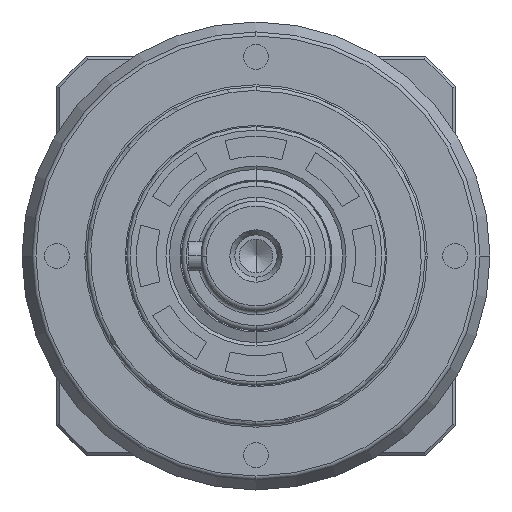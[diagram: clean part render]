
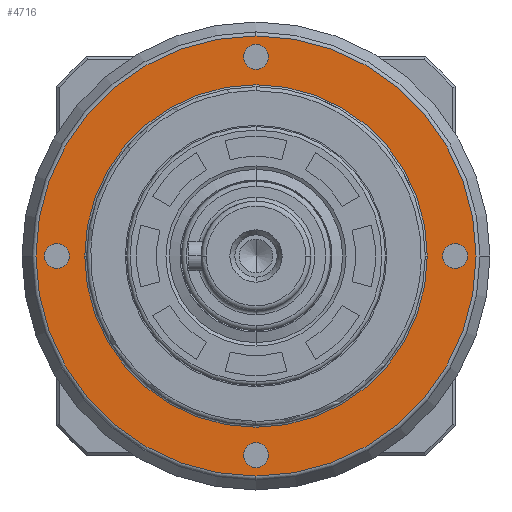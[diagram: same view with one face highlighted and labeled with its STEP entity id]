
A CAD part, left-side view. The second image highlights one B-rep face of the part: STEP entity #4716.
In plain terms, the highlighted planar face has unit normal (-1, 0, 0).
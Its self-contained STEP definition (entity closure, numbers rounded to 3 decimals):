
#267 = EDGE_CURVE ( 'NONE', #872, #44321, #36001, .T. ) ;
#760 = CARTESIAN_POINT ( 'NONE',  ( 6., 40., 2.5 ) ) ;
#872 = VERTEX_POINT ( 'NONE', #12331 ) ;
#1166 = CIRCLE ( 'NONE', #29185, 34.4 ) ;
#1711 = CARTESIAN_POINT ( 'NONE',  ( 6., 0., -44.2 ) ) ;
#1717 = FACE_BOUND ( 'NONE', #43559, .T. ) ;
#1766 = DIRECTION ( 'NONE',  ( 0., 0., -1. ) ) ;
#1818 = DIRECTION ( 'NONE',  ( 1., 0., 0. ) ) ;
#1829 = CARTESIAN_POINT ( 'NONE',  ( 6., 0., -40. ) ) ;
#2244 = VERTEX_POINT ( 'NONE', #3427 ) ;
#3152 = VERTEX_POINT ( 'NONE', #44223 ) ;
#3261 = CIRCLE ( 'NONE', #14621, 2.5 ) ;
#3427 = CARTESIAN_POINT ( 'NONE',  ( 6., 0., 37.5 ) ) ;
#4188 = VERTEX_POINT ( 'NONE', #26199 ) ;
#4608 = CIRCLE ( 'NONE', #43495, 2.5 ) ;
#4716 = ADVANCED_FACE ( 'NONE', ( #6859, #25931, #1717, #10395, #20441, #44890 ), #16132, .T. ) ;
#5812 = EDGE_CURVE ( 'NONE', #12767, #45249, #41118, .T. ) ;
#6550 = EDGE_CURVE ( 'NONE', #45249, #12767, #9799, .T. ) ;
#6859 = FACE_BOUND ( 'NONE', #9612, .T. ) ;
#7472 = VERTEX_POINT ( 'NONE', #20110 ) ;
#7682 = AXIS2_PLACEMENT_3D ( 'NONE', #38542, #17770, #42072 ) ;
#7708 = ORIENTED_EDGE ( 'NONE', *, *, #13668, .T. ) ;
#7971 = CIRCLE ( 'NONE', #36373, 2.5 ) ;
#8472 = VERTEX_POINT ( 'NONE', #760 ) ;
#9497 = VERTEX_POINT ( 'NONE', #14972 ) ;
#9612 = EDGE_LOOP ( 'NONE', ( #38111, #22942 ) ) ;
#9799 = CIRCLE ( 'NONE', #14979, 44.2 ) ;
#10395 = FACE_BOUND ( 'NONE', #10670, .T. ) ;
#10670 = EDGE_LOOP ( 'NONE', ( #41559, #42500 ) ) ;
#11231 = EDGE_CURVE ( 'NONE', #3152, #8472, #3261, .T. ) ;
#12331 = CARTESIAN_POINT ( 'NONE',  ( 6., 0., -37.5 ) ) ;
#12767 = VERTEX_POINT ( 'NONE', #1711 ) ;
#13668 = EDGE_CURVE ( 'NONE', #9497, #7472, #1166, .T. ) ;
#13990 = EDGE_CURVE ( 'NONE', #8472, #3152, #4608, .T. ) ;
#14621 = AXIS2_PLACEMENT_3D ( 'NONE', #28974, #28941, #28895 ) ;
#14972 = CARTESIAN_POINT ( 'NONE',  ( 6., -34.4, 0. ) ) ;
#14979 = AXIS2_PLACEMENT_3D ( 'NONE', #36043, #35988, #35975 ) ;
#15000 = CARTESIAN_POINT ( 'NONE',  ( 6., -40., -2.5 ) ) ;
#15325 = DIRECTION ( 'NONE',  ( 0., 0., 1. ) ) ;
#15383 = DIRECTION ( 'NONE',  ( -1., 0., 0. ) ) ;
#15414 = CARTESIAN_POINT ( 'NONE',  ( 6., 0., 0. ) ) ;
#15805 = ORIENTED_EDGE ( 'NONE', *, *, #21477, .T. ) ;
#16132 = PLANE ( 'NONE',  #16608 ) ;
#16192 = DIRECTION ( 'NONE',  ( 1., 0., 0. ) ) ;
#16608 = AXIS2_PLACEMENT_3D ( 'NONE', #15414, #15383, #15325 ) ;
#16997 = CIRCLE ( 'NONE', #20565, 2.5 ) ;
#17770 = DIRECTION ( 'NONE',  ( 1., 0., 0. ) ) ;
#18518 = DIRECTION ( 'NONE',  ( 1., 0., 0. ) ) ;
#18614 = EDGE_CURVE ( 'NONE', #7472, #9497, #38295, .T. ) ;
#18780 = ORIENTED_EDGE ( 'NONE', *, *, #37065, .T. ) ;
#19460 = EDGE_CURVE ( 'NONE', #26333, #2244, #20913, .T. ) ;
#19609 = CIRCLE ( 'NONE', #7682, 2.5 ) ;
#20058 = AXIS2_PLACEMENT_3D ( 'NONE', #23840, #23786, #23753 ) ;
#20110 = CARTESIAN_POINT ( 'NONE',  ( 6., 34.4, 0. ) ) ;
#20441 = FACE_OUTER_BOUND ( 'NONE', #40831, .T. ) ;
#20565 = AXIS2_PLACEMENT_3D ( 'NONE', #36976, #16192, #40498 ) ;
#20913 = CIRCLE ( 'NONE', #20058, 2.5 ) ;
#21477 = EDGE_CURVE ( 'NONE', #37113, #4188, #7971, .T. ) ;
#21692 = ORIENTED_EDGE ( 'NONE', *, *, #37303, .T. ) ;
#22223 = CARTESIAN_POINT ( 'NONE',  ( 6., 0., 42.5 ) ) ;
#22942 = ORIENTED_EDGE ( 'NONE', *, *, #19460, .T. ) ;
#23753 = DIRECTION ( 'NONE',  ( 0., 0., -1. ) ) ;
#23786 = DIRECTION ( 'NONE',  ( 1., 0., 0. ) ) ;
#23840 = CARTESIAN_POINT ( 'NONE',  ( 6., 0., 40. ) ) ;
#24767 = ORIENTED_EDGE ( 'NONE', *, *, #267, .T. ) ;
#25101 = DIRECTION ( 'NONE',  ( 0., 0., -1. ) ) ;
#25158 = DIRECTION ( 'NONE',  ( 1., 0., 0. ) ) ;
#25195 = CARTESIAN_POINT ( 'NONE',  ( 6., 40., 0. ) ) ;
#25437 = ORIENTED_EDGE ( 'NONE', *, *, #5812, .F. ) ;
#25480 = DIRECTION ( 'NONE',  ( 0., 0., -1. ) ) ;
#25570 = DIRECTION ( 'NONE',  ( 1., 0., 0. ) ) ;
#25616 = CARTESIAN_POINT ( 'NONE',  ( 6., -40., 0. ) ) ;
#25931 = FACE_BOUND ( 'NONE', #26546, .T. ) ;
#26199 = CARTESIAN_POINT ( 'NONE',  ( 6., -40., 2.5 ) ) ;
#26333 = VERTEX_POINT ( 'NONE', #22223 ) ;
#26546 = EDGE_LOOP ( 'NONE', ( #15805, #18780 ) ) ;
#26699 = ORIENTED_EDGE ( 'NONE', *, *, #18614, .T. ) ;
#28895 = DIRECTION ( 'NONE',  ( 0., 0., -1. ) ) ;
#28941 = DIRECTION ( 'NONE',  ( 1., 0., 0. ) ) ;
#28974 = CARTESIAN_POINT ( 'NONE',  ( 6., 40., 0. ) ) ;
#29185 = AXIS2_PLACEMENT_3D ( 'NONE', #34219, #34125, #34079 ) ;
#30610 = CARTESIAN_POINT ( 'NONE',  ( 6., 0., 44.2 ) ) ;
#30997 = AXIS2_PLACEMENT_3D ( 'NONE', #39789, #40271, #40523 ) ;
#31099 = CIRCLE ( 'NONE', #38554, 2.5 ) ;
#33544 = AXIS2_PLACEMENT_3D ( 'NONE', #38980, #38938, #38883 ) ;
#34079 = DIRECTION ( 'NONE',  ( 0., -1., 0. ) ) ;
#34125 = DIRECTION ( 'NONE',  ( 1., 0., 0. ) ) ;
#34219 = CARTESIAN_POINT ( 'NONE',  ( 6., 0., 0. ) ) ;
#35975 = DIRECTION ( 'NONE',  ( 0., 0., 1. ) ) ;
#35988 = DIRECTION ( 'NONE',  ( 1., 0., 0. ) ) ;
#36001 = CIRCLE ( 'NONE', #42381, 2.5 ) ;
#36043 = CARTESIAN_POINT ( 'NONE',  ( 6., 0., 0. ) ) ;
#36373 = AXIS2_PLACEMENT_3D ( 'NONE', #25616, #25570, #25480 ) ;
#36976 = CARTESIAN_POINT ( 'NONE',  ( 6., 0., -40. ) ) ;
#37065 = EDGE_CURVE ( 'NONE', #4188, #37113, #31099, .T. ) ;
#37113 = VERTEX_POINT ( 'NONE', #15000 ) ;
#37303 = EDGE_CURVE ( 'NONE', #44321, #872, #16997, .T. ) ;
#38111 = ORIENTED_EDGE ( 'NONE', *, *, #41407, .T. ) ;
#38295 = CIRCLE ( 'NONE', #33544, 34.4 ) ;
#38542 = CARTESIAN_POINT ( 'NONE',  ( 6., 0., 40. ) ) ;
#38554 = AXIS2_PLACEMENT_3D ( 'NONE', #39308, #18518, #42818 ) ;
#38883 = DIRECTION ( 'NONE',  ( 0., -1., 0. ) ) ;
#38938 = DIRECTION ( 'NONE',  ( 1., 0., 0. ) ) ;
#38980 = CARTESIAN_POINT ( 'NONE',  ( 6., 0., 0. ) ) ;
#39308 = CARTESIAN_POINT ( 'NONE',  ( 6., -40., 0. ) ) ;
#39789 = CARTESIAN_POINT ( 'NONE',  ( 6., 0., 0. ) ) ;
#40271 = DIRECTION ( 'NONE',  ( 1., 0., 0. ) ) ;
#40498 = DIRECTION ( 'NONE',  ( 0., 0., -1. ) ) ;
#40523 = DIRECTION ( 'NONE',  ( 0., 0., 1. ) ) ;
#40831 = EDGE_LOOP ( 'NONE', ( #42977, #25437 ) ) ;
#41118 = CIRCLE ( 'NONE', #30997, 44.2 ) ;
#41407 = EDGE_CURVE ( 'NONE', #2244, #26333, #19609, .T. ) ;
#41559 = ORIENTED_EDGE ( 'NONE', *, *, #11231, .T. ) ;
#42072 = DIRECTION ( 'NONE',  ( 0., 0., -1. ) ) ;
#42381 = AXIS2_PLACEMENT_3D ( 'NONE', #1829, #1818, #1766 ) ;
#42478 = CARTESIAN_POINT ( 'NONE',  ( 6., 0., -42.5 ) ) ;
#42500 = ORIENTED_EDGE ( 'NONE', *, *, #13990, .T. ) ;
#42736 = EDGE_LOOP ( 'NONE', ( #7708, #26699 ) ) ;
#42818 = DIRECTION ( 'NONE',  ( 0., 0., -1. ) ) ;
#42977 = ORIENTED_EDGE ( 'NONE', *, *, #6550, .F. ) ;
#43495 = AXIS2_PLACEMENT_3D ( 'NONE', #25195, #25158, #25101 ) ;
#43559 = EDGE_LOOP ( 'NONE', ( #21692, #24767 ) ) ;
#44223 = CARTESIAN_POINT ( 'NONE',  ( 6., 40., -2.5 ) ) ;
#44321 = VERTEX_POINT ( 'NONE', #42478 ) ;
#44890 = FACE_BOUND ( 'NONE', #42736, .T. ) ;
#45249 = VERTEX_POINT ( 'NONE', #30610 ) ;
